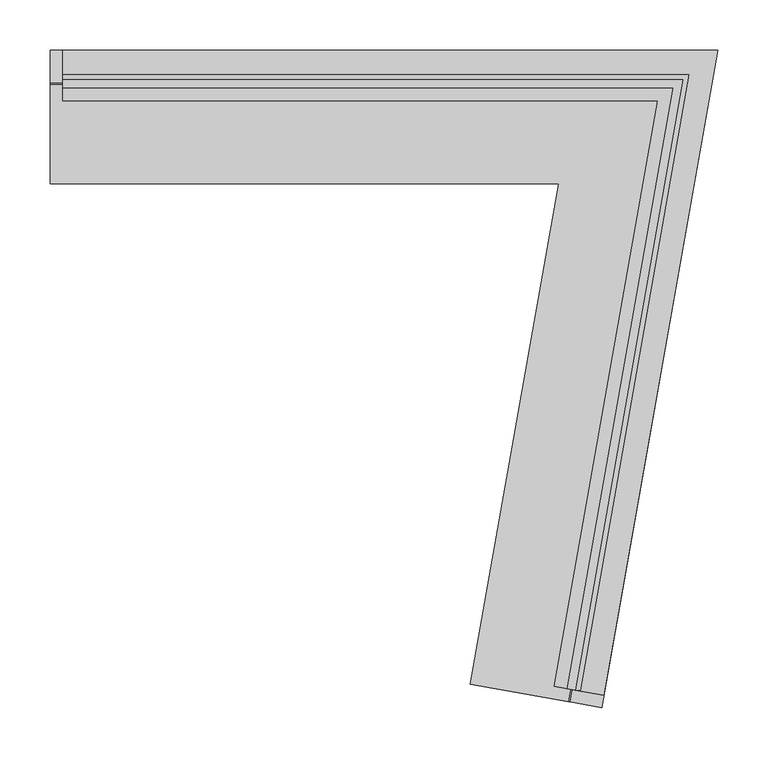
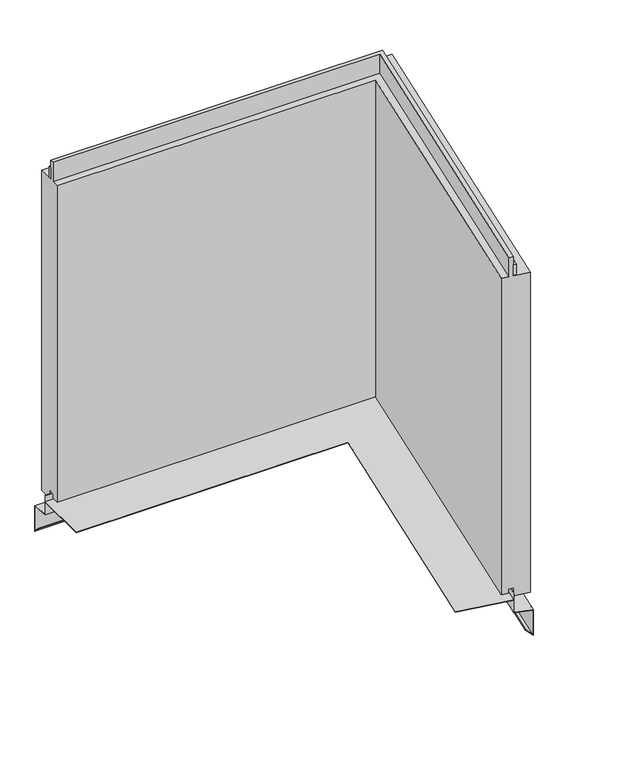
"""IFC4 building model written with IfcOpenShell, lengths in millimetres: plate geometry, Trimo_Qbiss Screen_L Corner Panel-HORIZONTAL : HR - B."""

from ifc_helpers import new_model, si_unit, frame, origin, place, context, project, spatial, polyline, outline, extrude, faceted_brep, source, transform, mapped, element, save


def plate_e5f96406(model_context):
    return source(origin(), model_context, "Body", "SolidModel", [
        faceted_brep([(-271.6623204, 66.7, 14.0835797), (351.152285, 66.7, 14.0835797), (243.0016638, -546.6526521, 14.0835797), (243.78951, -546.7915706, 14.0835797), (352.1056879, 67.5, 14.0835797), (-271.6623204, 67.5, 14.0835797), (352.1056879, 67.5, -23.0), (-271.6623204, 67.5, -23.0), (390.8376796, 100.0, -25.8433816), (-271.6623204, 100.0, -25.8433816), (390.8376796, 100.0, -76.0), (-271.6623204, 100.0, -76.0), (375.5247821, 87.1509533, -63.1509533), (-271.6623204, 87.1509533, -63.1509533), (376.1989397, 87.7166388, -62.5852679), (-271.6623204, 87.7166388, -62.5852679), (389.8842768, 99.2, -74.0686292), (-271.6623204, 99.2, -74.0686292), (389.8842768, 99.2, -26.5764465), (-271.6623204, 99.2, -26.5764465), (351.152285, 66.7, -23.7330649), (-271.6623204, 66.7, -23.7330649), (351.152285, 66.7, 1.0), (-271.6623204, 66.7, 1.0), (243.0016638, -546.6526521, 1.0), (145.3087347, -529.4267528, 1.0), (232.9303286, -32.5, 1.0), (-271.6623204, -32.5, 1.0), (-271.6623204, -32.5, 1.8), (232.9303286, -32.5, 1.8), (145.3087347, -529.4267528, 1.8), (243.0016638, -546.6526521, 1.8), (351.152285, 66.7, 1.8), (-271.6623204, 66.7, 1.8), (243.78951, -546.7915706, -23.0), (275.7957619, -552.4351364, -25.8433816), (275.7957619, -552.4351364, -76.0), (263.1419211, -550.2039228, -63.1509533), (263.6990125, -550.3021531, -62.5852679), (275.0079157, -552.2962178, -74.0686292), (275.0079157, -552.2962178, -26.5764465), (243.0016638, -546.6526521, -23.7330649)], [[[0, 1, 2, 3, 4, 5]], [[4, 6, 7, 5]], [[6, 8, 9, 7]], [[8, 10, 11, 9]], [[10, 12, 13, 11]], [[12, 14, 15, 13]], [[14, 16, 17, 15]], [[16, 18, 19, 17]], [[18, 20, 21, 19]], [[20, 22, 23, 21]], [[23, 22, 24, 25, 26, 27]], [[28, 29, 30, 31, 32, 33]], [[32, 1, 0, 33]], [[6, 4, 3, 34]], [[8, 6, 34, 35]], [[10, 8, 35, 36]], [[12, 10, 36, 37]], [[14, 12, 37, 38]], [[16, 14, 38, 39]], [[18, 16, 39, 40]], [[20, 18, 40, 41]], [[22, 20, 41, 24]], [[1, 32, 31, 2]], [[0, 5, 7, 9, 11, 13, 15, 17, 19, 21, 23, 27, 28, 33]], [[3, 2, 31, 30, 25, 24, 41, 40, 39, 38, 37, 36, 35, 34]], [[26, 29, 28, 27]], [[29, 26, 25, 30]]]),
        extrude(outline(polyline([(-259.1623204, 71.0), (-259.1623204, 76.0), (362.2355934, 76.0), (254.3309781, -535.9574832), (249.4069393, -535.0892423), (356.2768254, 71.0), (-259.1623204, 71.0)])), frame((0.0, 0.0, 628.0), z_axis=(0.0, 0.0, 1.0), x_axis=(1.0, 0.0, 0.0)), (0.0, 0.0, 1.0), 21.0),
        faceted_brep([(-259.1623204, 71.0, 627.0), (-259.1623204, 100.0, 627.0), (-259.1623204, 100.0, 0.0), (-259.1623204, 72.0, 0.0), (-259.1623204, 72.0, 15.5), (-259.1623204, 62.0, 15.5), (-259.1623204, 62.0, 7.0), (-259.1623204, 50.0, 7.0), (-259.1623204, 50.0, 627.0), (-259.1623204, 63.0, 627.0), (-259.1623204, 63.0, 664.5), (-259.1623204, 71.0, 664.5), (356.2768254, 71.0, 627.0), (249.4069393, -535.0892423, 627.0), (277.9663641, -540.1250395, 627.0), (390.8376796, 100.0, 627.0), (390.8376796, 100.0, 0.0), (277.9663641, -540.1250395, 0.0), (250.3917471, -535.2628905, 0.0), (357.468579, 72.0, 0.0), (357.468579, 72.0, 15.5), (250.3917471, -535.2628905, 15.5), (240.5436695, -533.5264087, 15.5), (345.5510431, 62.0, 15.5), (345.5510431, 62.0, 7.0), (240.5436695, -533.5264087, 7.0), (228.7259765, -531.4426306, 7.0), (331.25, 50.0, 7.0), (331.25, 50.0, 627.0), (228.7259765, -531.4426306, 627.0), (241.5284773, -533.7000569, 627.0), (346.7427967, 63.0, 627.0), (346.7427967, 63.0, 664.5), (241.5284773, -533.7000569, 664.5), (249.4069393, -535.0892423, 664.5), (356.2768254, 71.0, 664.5)], [[[0, 1, 2, 3, 4, 5, 6, 7, 8, 9, 10, 11]], [[1, 0, 12, 13, 14, 15]], [[2, 1, 15, 16]], [[3, 2, 16, 17, 18, 19]], [[4, 3, 19, 20]], [[5, 4, 20, 21, 22, 23]], [[6, 5, 23, 24]], [[7, 6, 24, 25, 26, 27]], [[8, 7, 27, 28]], [[9, 8, 28, 29, 30, 31]], [[10, 9, 31, 32]], [[11, 10, 32, 33, 34, 35]], [[0, 11, 35, 12]], [[13, 34, 33, 30, 29, 26, 25, 22, 21, 18, 17, 14]], [[16, 15, 14, 17]], [[20, 19, 18, 21]], [[24, 23, 22, 25]], [[28, 27, 26, 29]], [[32, 31, 30, 33]], [[12, 35, 34, 13]]]),
    ])


if __name__ == "__main__":
    model = new_model("IFC4")
    model_context = context("Model", 3, world=origin())
    ifc_project = project(units=[si_unit("LENGTHUNIT", "METRE", prefix="MILLI")], contexts=[model_context])
    site = spatial("IfcSite", under=ifc_project)
    building = spatial("IfcBuilding", under=site)
    placement = place(None, origin())
    plate_shape = plate_e5f96406(model_context)
    element("IfcPlate", 1, ObjectType="Trimo_Qbiss Screen_L Corner Panel-HORIZONTAL : HR - B", at=placement, inside=building, context=model_context, shape_type="MappedRepresentation", body=[
        mapped(plate_shape, transform((0.0, 0.0, 0.0), x_axis=(1.0, 0.0, 0.0), y_axis=(0.0, 1.0, 0.0), z_axis=(0.0, 0.0, 1.0))),
    ])
    save(model, "model.ifc")
